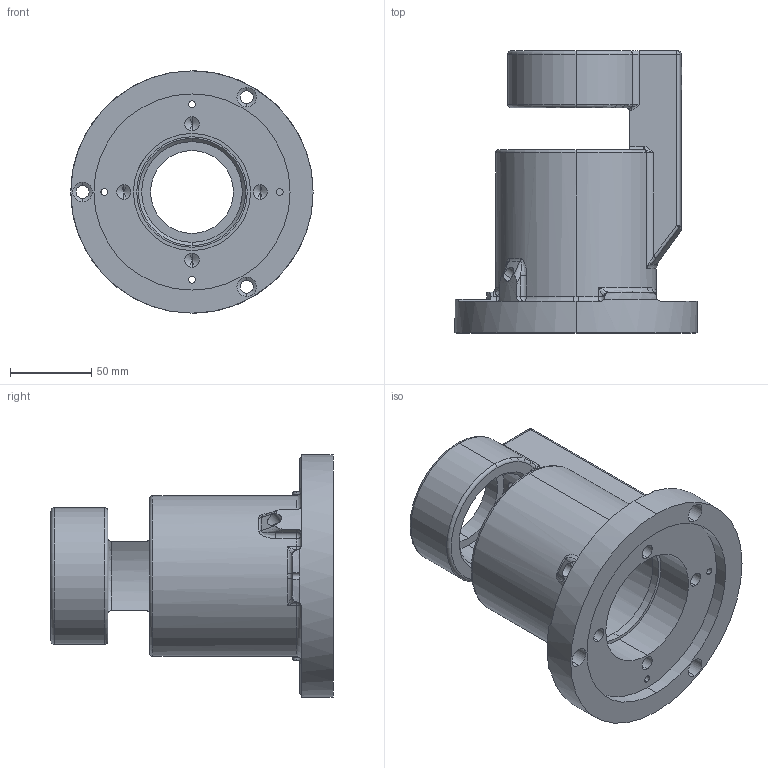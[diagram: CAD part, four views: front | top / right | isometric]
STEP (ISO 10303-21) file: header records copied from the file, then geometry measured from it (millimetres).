
FILE_DESCRIPTION (( 'STEP AP203' ), '1' );
FILE_NAME ('milling head.STEP', '2025-01-06T13:33:00', ( '' ), ( '' ), 'SwSTEP 2.0', 'SolidWorks 2016', '' );
FILE_SCHEMA (( 'CONFIG_CONTROL_DESIGN' ));
Length unit declared in the file: millimetre
Products named in the file (1): milling head
Bounding box: 149.2 x 173.7 x 149.2 mm (x, y, z)
Volume: 663919.3 mm3; surface area: 131426.3 mm2
Topology: 1 solids, 1 shells, 219 faces, 562 edges, 317 vertices
Faces by surface type: cylinder 90, bspline 42, torus 32, plane 27, cone 18, sphere 10
Entity records: 8278 total; most frequent: CARTESIAN_POINT 3278, ORIENTED_EDGE 1064, DIRECTION 1016, EDGE_CURVE 532, AXIS2_PLACEMENT_3D 439, VERTEX_POINT 317, CIRCLE 261, EDGE_LOOP 243
